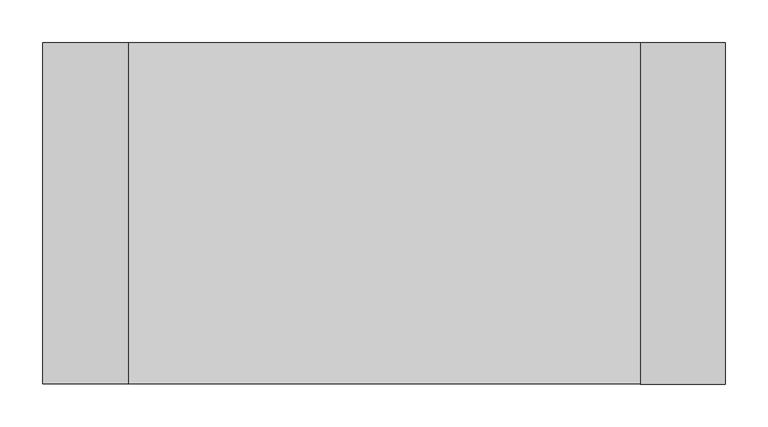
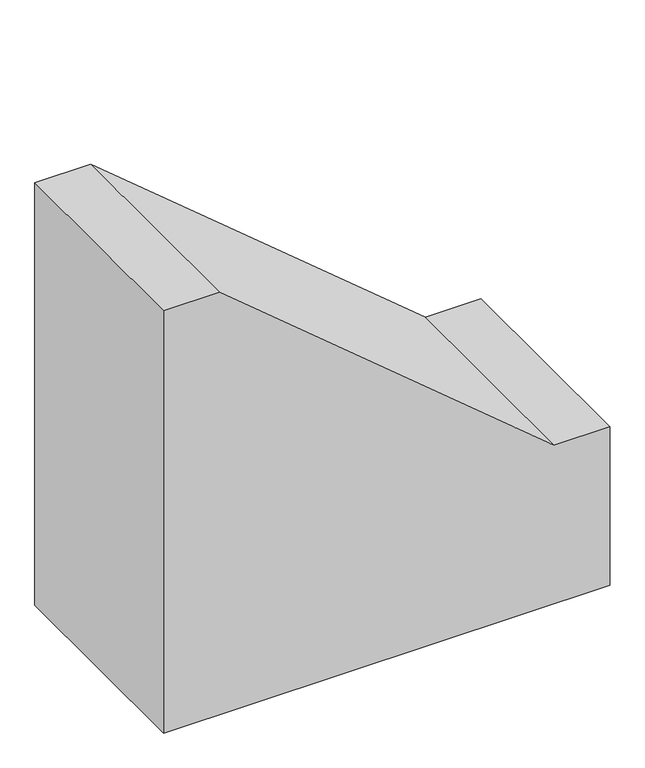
"""IFC4 building model written with IfcOpenShell, lengths in millimetres: duct fitting geometry, 2017_Reducción_Climaver_Reducción-Rectangular-a-una-cara-horizontal-en-U : Reducción en U a cara horizontal."""

from ifc_helpers import new_model, si_unit, frame, origin, place, context, project, spatial, polyline, outline, extrude, source, transform, mapped, element, save


def duct_fitting_9bee6b78(model_context):
    return source(origin(), model_context, "Body", "SweptSolid", [
        extrude(outline(polyline([(400.0, -400.0), (-400.0, -400.0), (-400.0, 400.0), (-100.0, 400.0), (-100.0, 300.0), (400.0, -300.0), (400.0, -400.0)])), frame((0.0, -200.0, 0.0), z_axis=(0.0, 1.0, 0.0), x_axis=(0.0, 0.0, 1.0)), (0.0, 0.0, 1.0), 400.0),
    ])


if __name__ == "__main__":
    model = new_model("IFC4")
    model_context = context("Model", 3, world=origin())
    ifc_project = project(units=[si_unit("LENGTHUNIT", "METRE", prefix="MILLI")], contexts=[model_context])
    site = spatial("IfcSite", under=ifc_project)
    building = spatial("IfcBuilding", under=site)
    placement = place(None, origin())
    duct_fitting_shape = duct_fitting_9bee6b78(model_context)
    element("IfcDuctFitting", 1, ObjectType="2017_Reducción_Climaver_Reducción-Rectangular-a-una-cara-horizontal-en-U : Reducción en U a cara horizontal", at=placement, inside=building, context=model_context, shape_type="MappedRepresentation", body=[
        mapped(duct_fitting_shape, transform((0.0, 0.0, 0.0), x_axis=(1.0, 0.0, 0.0), y_axis=(0.0, 1.0, 0.0), z_axis=(0.0, 0.0, 1.0))),
    ])
    save(model, "model.ifc")
